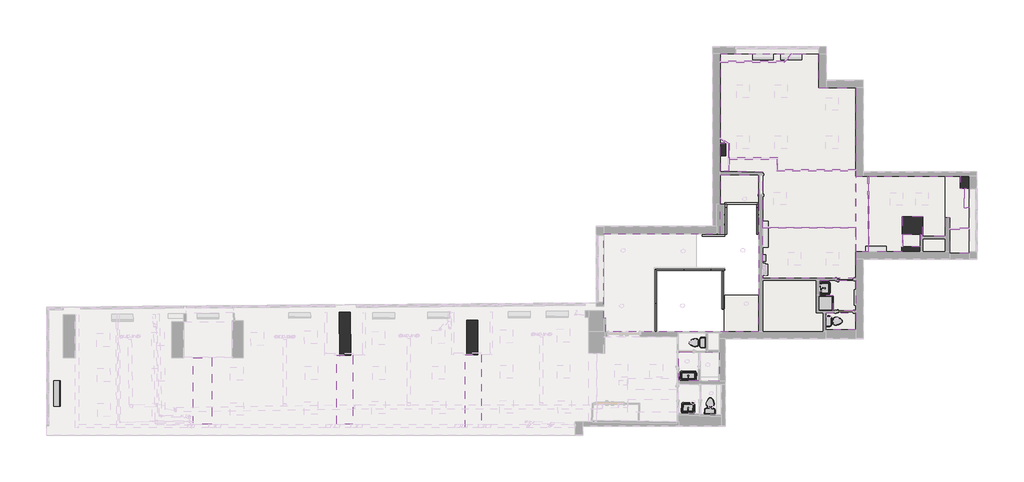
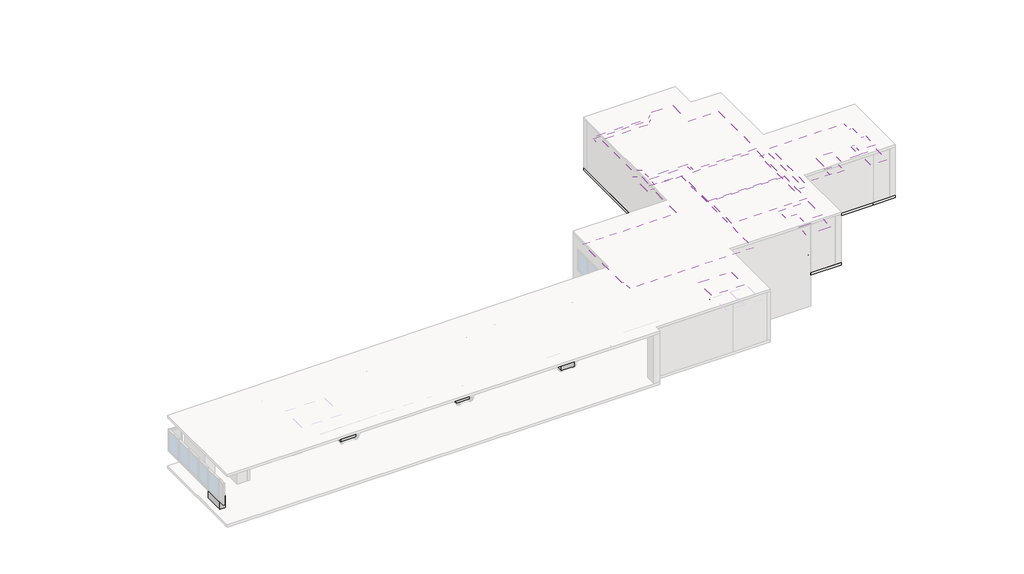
# One storey, part 5 of 8: 13 coverings, 7 proxies, 6 beams, 6 columns, 6 flow terminals, 6 railings, 4 slabs, 1 furniture element.
"""IFC4 building model written with IfcOpenShell, lengths in millimetres."""

from ifc_helpers import new_model, si_unit, point, frame, frame_2d, origin, origin_with_axes, place, context, project, spatial, polyline, circle_curve, ellipse_curve, trimmed, segment, composite_curve, outline, extrude, faceted_brep, transform, mapped, element, save
from ifc_brep_helpers import plane_surface, cylinder_surface, advanced_brep
from components import concrete_rectangular_beam_16_x_35_8daca9ba, concrete_rectangular_beam_16_x_36_812464ae, concrete_rectangular_beam_16_x_36_d7c6fc45, proxy_1b8ec6d5, support_metal_circular_support_metal_circular_6fb01533, flow_terminal_a8b8a3cc, flow_terminal_f29d4aba, toilet_domestic_3d_toilet_domestic_3d_f7549cf7, toilet_domestic_3d_toilet_domestic_3d_183bbd19, furniture_b5a66020

model = new_model("IFC4")

# Units and contexts
model_context = context("Model", 3, world=origin())
ifc_project = project(units=[si_unit("LENGTHUNIT", "METRE", prefix="MILLI")], contexts=[model_context])

# Site, building, storey
site = spatial("IfcSite", under=ifc_project)
building = spatial("IfcBuilding", under=site)
storey = spatial("IfcBuildingStorey", under=building, Name="GFL", Elevation=0.0)

# Beams
placement = place(None, origin())
element("IfcBeam", 1, ObjectType="Concrete-Rectangular Beam : 12 x 24", at=placement, inside=storey, context=model_context, shape_type="SweptSolid", body=[
    extrude(outline(polyline([(-1244.7061507, 11862.7084347), (-1497.1186507, 11862.7084347), (-1497.1186507, 12808.5638158), (-1244.7061507, 12808.5638158), (-1244.7061507, 11862.7084347)])), frame((0.0, 0.0, 1857.375), z_axis=(0.0, 0.0, 1.0), x_axis=(1.0, 0.0, 0.0)), (0.0, 0.0, 1.0), 533.4),
])
element("IfcBeam", 2, ObjectType="Concrete-Rectangular Beam : 16 x 33", at=placement, inside=storey, context=model_context, shape_type="Brep", body=[
    faceted_brep([(-13180.8791902, 13609.3945963, 2349.5), (-13180.8791902, 13609.3945963, 2024.0625), (-12746.6979402, 13609.3945963, 2024.0625), (-12746.6979402, 13609.3945963, 2349.5), (-12746.6979402, 14962.2837344, 2349.5), (-13180.8791902, 14962.2837344, 2349.5), (-12746.6979402, 14962.2837344, 2024.0625), (-13180.8791902, 14962.2837344, 2024.0625), (-13180.8791902, 14354.1337344, 2024.0625)], [[[0, 1, 2, 3]], [[4, 5, 0, 3]], [[6, 4, 3, 2]], [[7, 6, 2, 1, 8]], [[5, 7, 8, 1, 0]], [[5, 4, 6, 7]]]),
])
element("IfcBeam", 3, ObjectType="Concrete-Rectangular Beam : 16 x 34", at=placement, inside=storey, context=model_context, shape_type="SweptSolid", body=[
    extrude(outline(polyline([(-6680.8731869, 13388.7950658), (-6059.3669369, 13388.7950658), (-6059.3669369, 9769.2950658), (-6680.8731869, 9769.2950658), (-6680.8731869, 13388.7950658)])), frame((0.0, 0.0, 2068.083673), z_axis=(0.0, 0.0, 1.0), x_axis=(1.0, 0.0, 0.0)), (0.0, 0.0, 1.0), 313.7296875),
])
concrete_rectangular_beam_16_x_35_shape = concrete_rectangular_beam_16_x_35_8daca9ba(model_context)
element("IfcBeam", 4, ObjectType="Concrete-Rectangular Beam : 16 x 35", at=placement, inside=storey, context=model_context, shape_type="MappedRepresentation", body=[
    mapped(concrete_rectangular_beam_16_x_35_shape, transform((-37962.2307437, 3093.3429092, 2743.99375), x_axis=(0.0, -1.0, 0.0), y_axis=(1.0, 0.0, 0.0), z_axis=(0.0, 0.0, 1.0))),
])
concrete_rectangular_beam_16_x_36_shape = concrete_rectangular_beam_16_x_36_812464ae(model_context)
element("IfcBeam", 5, ObjectType="Concrete-Rectangular Beam : 16 x 36", at=placement, inside=storey, context=model_context, shape_type="MappedRepresentation", body=[
    mapped(concrete_rectangular_beam_16_x_36_shape, transform((-31153.3191434, 3147.7371542, 2743.99375), x_axis=(0.0, -1.0, 0.0), y_axis=(1.0, 0.0, 0.0), z_axis=(0.0, 0.0, 1.0))),
])
concrete_rectangular_beam_16_x_36_2_shape = concrete_rectangular_beam_16_x_36_d7c6fc45(model_context)
element("IfcBeam", 6, ObjectType="Concrete-Rectangular Beam : 16 x 36", at=placement, inside=storey, context=model_context, shape_type="MappedRepresentation", body=[
    mapped(concrete_rectangular_beam_16_x_36_2_shape, transform((-25008.9531385, 3082.6950491, 2743.99375), x_axis=(0.0, -1.0, 0.0), y_axis=(1.0, 0.0, 0.0), z_axis=(0.0, 0.0, 1.0))),
])

# Proxies
proxy_shape = proxy_1b8ec6d5(model_context)
element("IfcBuildingElementProxy", 7, Name="Radiator - Hydronic Fin Tube : 0-3/4\" NPT", ObjectType="Radiator - Hydronic Fin Tube : 0-3/4\" NPT", at=placement, inside=storey, context=model_context, shape_type="MappedRepresentation", body=[
    mapped(proxy_shape, transform((-45247.1973245, 2680.3991383, -304.8), x_axis=(0.0, -1.0, 0.0), y_axis=(1.0, 0.0, 0.0), z_axis=(0.0, 0.0, 1.0))),
])
support_metal_circular_support_metal_circular_shape = support_metal_circular_support_metal_circular_6fb01533(model_context)
element("IfcBuildingElementProxy", 8, Name="Support - Metal - Circular : Support - Metal - Circular", ObjectType="Support - Metal - Circular : Support - Metal - Circular", at=placement, inside=storey, context=model_context, shape_type="MappedRepresentation", body=[
    mapped(support_metal_circular_support_metal_circular_shape, transform((-13325.8639443, 10540.8245008, 311.9185823), x_axis=(1.0, 0.0, 0.0), y_axis=(0.0, 1.0, 0.0), z_axis=(0.0, 0.0, 1.0))),
])
element("IfcBuildingElementProxy", 9, Name="Support - Metal - Circular : Support - Metal - Circular", ObjectType="Support - Metal - Circular : Support - Metal - Circular", at=placement, inside=storey, context=model_context, shape_type="MappedRepresentation", body=[
    mapped(support_metal_circular_support_metal_circular_shape, transform((-13681.4639443, 10540.8245008, 566.8887212), x_axis=(1.0, 0.0, 0.0), y_axis=(0.0, 1.0, 0.0), z_axis=(0.0, 0.0, 1.0))),
])
element("IfcBuildingElementProxy", 10, Name="Support - Metal - Circular : Support - Metal - Circular", ObjectType="Support - Metal - Circular : Support - Metal - Circular", at=placement, inside=storey, context=model_context, shape_type="MappedRepresentation", body=[
    mapped(support_metal_circular_support_metal_circular_shape, transform((-12901.4791902, 11069.383874, 348.0927039), x_axis=(0.0, 1.0, 0.0), y_axis=(-1.0, 0.0, 0.0), z_axis=(0.0, 0.0, 1.0))),
])
element("IfcBuildingElementProxy", 11, Name="Support - Metal - Circular : Support - Metal - Circular", ObjectType="Support - Metal - Circular : Support - Metal - Circular", at=placement, inside=storey, context=model_context, shape_type="MappedRepresentation", body=[
    mapped(support_metal_circular_support_metal_circular_shape, transform((-12901.4791902, 11540.7105984, 652.3126806), x_axis=(0.0, 1.0, 0.0), y_axis=(-1.0, 0.0, 0.0), z_axis=(0.0, 0.0, 1.0))),
])
element("IfcBuildingElementProxy", 12, Name="Support - Metal - Circular : Support - Metal - Circular", ObjectType="Support - Metal - Circular : Support - Metal - Circular", at=placement, inside=storey, context=model_context, shape_type="MappedRepresentation", body=[
    mapped(support_metal_circular_support_metal_circular_shape, transform((-11409.3527068, 11071.5595119, 349.4969793), x_axis=(0.0, -1.0, 0.0), y_axis=(1.0, 0.0, 0.0), z_axis=(0.0, 0.0, 1.0))),
])
element("IfcBuildingElementProxy", 13, Name="Support - Metal - Circular : Support - Metal - Circular", ObjectType="Support - Metal - Circular : Support - Metal - Circular", at=placement, inside=storey, context=model_context, shape_type="MappedRepresentation", body=[
    mapped(support_metal_circular_support_metal_circular_shape, transform((-11409.3527068, 11545.0618742, 655.1212313), x_axis=(0.0, -1.0, 0.0), y_axis=(1.0, 0.0, 0.0), z_axis=(0.0, 0.0, 1.0))),
])

# Columns
element("IfcColumn", 14, ObjectType="Concrete-Rectangular-Column : 10 1/4\" x 2\"", at=placement, inside=storey, context=model_context, shape_type="SweptSolid", body=[
    extrude(outline(polyline([(-24780.447859, 6479.8097099), (-24780.447859, 4824.8409599), (-25314.641609, 4824.8409599), (-25314.641609, 6479.8097099), (-24780.447859, 6479.8097099)])), origin_with_axes(), (0.0, 0.0, 1.0), 1536.9976562),
])
element("IfcColumn", 15, ObjectType="Concrete-Rectangular-Column : 10 1/4\" x 2\" 2", at=placement, inside=storey, context=model_context, shape_type="Brep", body=[
    faceted_brep([(-30885.7356063, 6871.6385455, 0.0), (-30885.3898174, 6833.5401147, 0.0), (-30866.9360392, 4800.3340142, 0.0), (-31401.1077878, 4795.4857664, 0.0), (-31419.9073549, 6866.7902977, 0.0), (-31148.8430205, 6869.2505309, 0.0), (-30885.7356063, 6871.6385455, 1589.2859375), (-30885.3898174, 6833.5401147, 1589.2859375), (-30866.9360392, 4800.3340142, 1589.2859375), (-31401.1077878, 4795.4857664, 1589.2859375), (-31419.9073549, 6866.7902977, 1589.2859375), (-31148.8430205, 6869.2505309, 1589.2859375)], [[[0, 1, 2, 3, 4, 5]], [[6, 7, 8, 2, 1, 0]], [[8, 9, 3, 2]], [[9, 10, 4, 3]], [[10, 11, 6, 0, 5, 4]], [[6, 11, 10, 9, 8, 7]]]),
])
element("IfcColumn", 16, ObjectType="Concrete-Rectangular-Column : 10.5\" x 2'", at=placement, inside=storey, context=model_context, shape_type="Brep", body=[
    faceted_brep([(-1244.7061507, 13388.7950658, 120.65), (-1244.7061507, 12808.5638158, 120.65), (-1678.8874007, 12808.5638158, 120.65), (-1678.8874007, 13388.7950658, 120.65), (-1244.7061507, 13388.7950658, 2390.775), (-1244.7061507, 12808.5638158, 2390.775), (-1244.7061507, 12808.5638158, 1857.375), (-1497.1186507, 12808.5638158, 2390.775), (-1678.8874007, 12808.5638158, 2390.775), (-1678.8874007, 13388.7950658, 2390.775)], [[[0, 1, 2, 3]], [[4, 5, 6, 1, 0]], [[5, 7, 8, 2, 1, 6]], [[8, 9, 3, 2]], [[9, 4, 0, 3]], [[4, 9, 8, 7, 5]]]),
])
element("IfcColumn", 17, ObjectType="Concrete-Rectangular-Column : 10.5\" x 2' 3", at=placement, inside=storey, context=model_context, shape_type="SweptSolid", body=[
    extrude(outline(polyline([(-3481.3157768, 11427.8670688), (-3481.3157768, 10608.7170688), (-4468.7407768, 10608.7170688), (-4468.7407768, 11427.8670688), (-3481.3157768, 11427.8670688)])), origin_with_axes(), (0.0, 0.0, 1.0), 2390.775),
])
element("IfcColumn", 18, ObjectType="Concrete-Rectangular-Column : 10.5\" x 2' 4", at=placement, inside=storey, context=model_context, shape_type="SweptSolid", body=[
    extrude(outline(polyline([(-4492.5532768, 9999.6810033), (-3608.3157768, 9999.6810033), (-3608.3157768, 9769.2950658), (-4492.5532768, 9769.2950658), (-4492.5532768, 9999.6810033)])), origin_with_axes(), (0.0, 0.0, 1.0), 2390.775),
])
element("IfcColumn", 19, ObjectType="Concrete-Rectangular-Column : 12 x 19", at=placement, inside=storey, context=model_context, shape_type="Brep", body=[
    faceted_brep([(-12901.4791902, 14354.1337344, 0.0), (-13180.8791902, 14354.1337344, 0.0), (-13180.8791902, 14963.7337344, 0.0), (-12901.4791902, 14963.7337344, 0.0), (-12901.4791902, 14354.1337344, 2024.0625), (-13180.8791902, 14354.1337344, 2024.0625), (-13180.8791902, 14962.2837344, 2024.0625), (-13180.8791902, 14963.7337344, 2024.0625), (-12901.4791902, 14963.7337344, 2024.0625)], [[[0, 1, 2, 3]], [[4, 5, 1, 0]], [[5, 6, 7, 2, 1]], [[7, 8, 3, 2]], [[8, 4, 0, 3]], [[4, 8, 7, 6, 5]]]),
])

# Coverings
element("IfcCovering", 20, ObjectType="2' x 2' ACT System", at=placement, inside=storey, context=model_context, shape_type="SweptSolid", body=[
    extrude(outline(polyline([(-9710.2150678, 19230.3973103), (-8458.386381, 19230.3973103), (-8458.386381, 17605.7809522), (-6680.8731869, 17605.7809522), (-6680.8731869, 13695.7367924), (-10426.9337586, 13695.7367924), (-10426.9337586, 14253.288672), (-12750.7457487, 14253.288672), (-12750.7457487, 14931.1743234), (-13180.8791902, 15232.3570016), (-13180.8791902, 18840.026943), (-10100.5854351, 18840.026943), (-9710.2150678, 19230.3973103)]), holes=[polyline([(-12395.386381, 17137.3915215), (-11785.786381, 17137.3915215), (-11785.786381, 17746.9915215), (-12395.386381, 17746.9915215), (-12395.386381, 17137.3915215)]), polyline([(-10566.586381, 17137.3915215), (-9956.986381, 17137.3915215), (-9956.986381, 17746.9915215), (-10566.586381, 17746.9915215), (-10566.586381, 17137.3915215)]), polyline([(-10566.586381, 14698.9915215), (-9956.986381, 14698.9915215), (-9956.986381, 15308.5915215), (-10566.586381, 15308.5915215), (-10566.586381, 14698.9915215)]), polyline([(-12395.386381, 14698.9915215), (-11785.786381, 14698.9915215), (-11785.786381, 15308.5915215), (-12395.386381, 15308.5915215), (-12395.386381, 14698.9915215)]), polyline([(-8128.186381, 14698.9915215), (-7518.586381, 14698.9915215), (-7518.586381, 15308.5915215), (-8128.186381, 15308.5915215), (-8128.186381, 14698.9915215)]), polyline([(-8128.186381, 16527.7915215), (-7518.586381, 16527.7915215), (-7518.586381, 17137.3915215), (-8128.186381, 17137.3915215), (-8128.186381, 16527.7915215)])]), frame((0.0, 0.0, 2349.5), z_axis=(0.0, 0.0, 1.0), x_axis=(1.0, 0.0, 0.0)), (0.0, 0.0, 1.0), 57.15),
])
element("IfcCovering", 21, ObjectType="2' x 2' ACT System", at=placement, inside=storey, context=model_context, shape_type="SweptSolid", body=[
    extrude(outline(polyline([(-10121.6274841, 18890.826943), (-13180.8791902, 18890.826943), (-13180.8791902, 19230.3973103), (-9782.0571168, 19230.3973103), (-10121.6274841, 18890.826943)])), frame((0.0, 0.0, 1909.5988025), z_axis=(0.0, 0.0, 1.0), x_axis=(1.0, 0.0, 0.0)), (0.0, 0.0, 1.0), 57.15),
])
element("IfcCovering", 22, ObjectType="2' x 2' ACT System", at=placement, inside=storey, context=model_context, shape_type="SweptSolid", body=[
    extrude(outline(polyline([(-12750.7457487, 13605.8128133), (-12750.7457487, 14202.488672), (-10477.7337586, 14202.488672), (-10477.7337586, 13644.9367924), (-6680.8731869, 13644.9367924), (-6680.8731869, 10900.4032427), (-11129.9527068, 10900.4032427), (-11129.9527068, 13578.5632257), (-12750.7457487, 13605.8128133)]), holes=[polyline([(-10616.3926705, 12012.7887669), (-10006.7926705, 12012.7887669), (-10006.7926705, 12622.3887669), (-10616.3926705, 12622.3887669), (-10616.3926705, 12012.7887669)])]), frame((0.0, 0.0, 2260.6), z_axis=(0.0, 0.0, 1.0), x_axis=(1.0, 0.0, 0.0)), (0.0, 0.0, 1.0), 57.15),
])
element("IfcCovering", 23, ObjectType="2' x 2' ACT System", at=placement, inside=storey, context=model_context, shape_type="SweptSolid", body=[
    extrude(outline(polyline([(-11129.9527068, 10900.4032427), (-6680.8731869, 10900.4032427), (-6680.8731869, 9769.2950658), (-6682.9227955, 9769.2950658), (-6682.9227955, 8491.1857327), (-11129.9527068, 8491.1857327), (-11129.9527068, 10900.4032427)]), holes=[polyline([(-8101.7926705, 9127.9450658), (-7492.1926705, 9127.9450658), (-7492.1926705, 9737.5450658), (-8101.7926705, 9737.5450658), (-8101.7926705, 9127.9450658)]), polyline([(-9930.5926705, 9127.9450658), (-9320.9926705, 9127.9450658), (-9320.9926705, 9737.5450658), (-9930.5926705, 9737.5450658), (-9930.5926705, 9127.9450658)])]), frame((0.0, 0.0, 2368.55), z_axis=(0.0, 0.0, 1.0), x_axis=(1.0, 0.0, 0.0)), (0.0, 0.0, 1.0), 57.15),
])
element("IfcCovering", 24, ObjectType="2' x 2' ACT System", at=placement, inside=storey, context=model_context, shape_type="SweptSolid", body=[
    extrude(outline(polyline([(-6665.9337586, 13388.7950658), (-6137.593625, 13388.7950658), (-6091.4857822, 9769.2950658), (-6665.9337586, 9769.2950658), (-6665.9337586, 13388.7950658)])), frame((0.0, 0.0, 2082.8), z_axis=(0.0, 0.0, 1.0), x_axis=(1.0, 0.0, 0.0)), (0.0, 0.0, 1.0), 57.15),
])
element("IfcCovering", 25, ObjectType="2' x 2' ACT System", at=placement, inside=storey, context=model_context, shape_type="SweptSolid", body=[
    extrude(outline(polyline([(-4468.7407768, 11427.8670688), (-4468.7407768, 9769.2950658), (-6059.3669369, 9769.2950658), (-6059.3669369, 13388.7950658), (-1678.8874007, 13388.7950658), (-1678.8874007, 12808.5638158), (-1497.1186507, 12808.5638158), (-1497.1186507, 11862.7084347), (-1244.7061507, 11862.7084347), (-1244.7061507, 10897.8795958), (-2196.0199088, 10897.8795958), (-2196.0199088, 11399.6268595), (-2399.2199088, 11399.6268595), (-2399.2199088, 10510.6268595), (-3481.3157768, 10510.6268595), (-3481.3157768, 11427.8670688), (-4468.7407768, 11427.8670688)]), holes=[polyline([(-3827.7208926, 11984.817033), (-3218.1208926, 11984.817033), (-3218.1208926, 12594.417033), (-3827.7208926, 12594.417033), (-3827.7208926, 11984.817033)]), polyline([(-5046.9208926, 11984.817033), (-4437.3208926, 11984.817033), (-4437.3208926, 12594.417033), (-5046.9208926, 12594.417033), (-5046.9208926, 11984.817033)])]), frame((0.0, 0.0, 2374.9), z_axis=(0.0, 0.0, 1.0), x_axis=(1.0, 0.0, 0.0)), (0.0, 0.0, 1.0), 57.15),
])
element("IfcCovering", 26, ObjectType="2' x 2' ACT System", at=placement, inside=storey, context=model_context, shape_type="SweptSolid", body=[
    extrude(outline(polyline([(-8421.1230269, 8389.5857327), (-6682.9227955, 8389.5857327), (-6682.9227955, 6933.2610317), (-7773.4230269, 6933.2610317), (-7773.4230269, 7657.1610317), (-8421.1230269, 7657.1610317), (-8421.1230269, 8389.5857327)])), frame((0.0, 0.0, 2279.65), z_axis=(0.0, 0.0, 1.0), x_axis=(1.0, 0.0, 0.0)), (0.0, 0.0, 1.0), 57.15),
])
element("IfcCovering", 27, ObjectType="2' x 2' ACT System", at=placement, inside=storey, context=model_context, shape_type="SweptSolid", body=[
    extrude(outline(polyline([(-8132.4684097, 6831.6610317), (-6682.9227955, 6831.6610317), (-6682.9227955, 6021.7585448), (-8132.4684097, 6021.7585448), (-8132.4684097, 6831.6610317)]), holes=[composite_curve([segment(trimmed(circle_curve(frame_2d((-7597.3227955, 6542.4585448)), 76.2), [point((-7521.1227955, 6542.4585448))], [point((-7673.5227955, 6542.4585448))], True, "CARTESIAN"), True, "CONTINUOUS"), segment(trimmed(circle_curve(frame_2d((-7597.3227955, 6542.4585448)), 76.2), [point((-7673.5227955, 6542.4585448))], [point((-7521.1227955, 6542.4585448))], True, "CARTESIAN"), True, "CONTINUOUS")], self_intersect=False)]), frame((0.0, 0.0, 2101.85), z_axis=(0.0, 0.0, 1.0), x_axis=(1.0, 0.0, 0.0)), (0.0, 0.0, 1.0), 57.15),
])
element("IfcCovering", 28, ObjectType="2' x 2' ACT System", at=placement, inside=storey, context=model_context, shape_type="SweptSolid", body=[
    extrude(outline(polyline([(-13234.6348925, 3575.2500488), (-15165.5145713, 3604.1670738), (-15165.5145713, 4972.1385359), (-13870.1145713, 4958.3576559), (-13870.1145713, 4976.8976733), (-13234.6348925, 4938.7957145), (-13234.6348925, 3575.2500488)]), holes=[composite_curve([segment(trimmed(circle_curve(frame_2d((-14764.1249503, 4518.6827389)), 101.6), [point((-14662.5249503, 4518.6827389))], [point((-14865.7249503, 4518.6827389))], True, "CARTESIAN"), True, "CONTINUOUS"), segment(trimmed(circle_curve(frame_2d((-14764.1249503, 4518.6827389)), 101.6), [point((-14865.7249503, 4518.6827389))], [point((-14662.5249503, 4518.6827389))], True, "CARTESIAN"), True, "CONTINUOUS")], self_intersect=False), composite_curve([segment(trimmed(circle_curve(frame_2d((-13768.5145713, 4354.9954184)), 101.6), [point((-13666.9145713, 4354.9954184))], [point((-13870.1145713, 4354.9954184))], True, "CARTESIAN"), True, "CONTINUOUS"), segment(trimmed(circle_curve(frame_2d((-13768.5145713, 4354.9954184)), 101.6), [point((-13870.1145713, 4354.9954184))], [point((-13666.9145713, 4354.9954184))], True, "CARTESIAN"), True, "CONTINUOUS")], self_intersect=False)]), frame((0.0, 0.0, 2222.5), z_axis=(0.0, 0.0, 1.0), x_axis=(1.0, 0.0, 0.0)), (0.0, 0.0, 1.0), 57.15),
    extrude(outline(polyline([(-15165.5145713, 5894.7585448), (-13870.1145713, 5894.7585448), (-13870.1145713, 5009.1605304), (-15165.5145713, 5022.9414105), (-15165.5145713, 5894.7585448)]), holes=[composite_curve([segment(trimmed(circle_curve(frame_2d((-14547.2524396, 5442.0840751)), 101.6), [point((-14445.6524396, 5442.0840751))], [point((-14648.8524396, 5442.0840751))], True, "CARTESIAN"), True, "CONTINUOUS"), segment(trimmed(circle_curve(frame_2d((-14547.2524396, 5442.0840751)), 101.6), [point((-14648.8524396, 5442.0840751))], [point((-14445.6524396, 5442.0840751))], True, "CARTESIAN"), True, "CONTINUOUS")], self_intersect=False)]), frame((0.0, 0.0, 2222.5), z_axis=(0.0, 0.0, 1.0), x_axis=(1.0, 0.0, 0.0)), (0.0, 0.0, 1.0), 57.15),
])
element("IfcCovering", 29, ObjectType="GWB on Mtl. Stud", at=placement, inside=storey, context=model_context, shape_type="SweptSolid", body=[
    extrude(outline(polyline([(-13180.8791902, 10617.0245008), (-13180.8791902, 13460.6228958), (-11333.1527068, 13429.5579891), (-11333.1527068, 5945.5585448), (-18654.1525663, 5945.5585448), (-18654.1525663, 6586.391239), (-18756.4867691, 6586.391239), (-18756.4867691, 10617.0245008), (-13180.8791902, 10617.0245008)]), holes=[composite_curve([segment(trimmed(circle_curve(frame_2d((-14946.1791902, 9794.6995008)), 101.6), [point((-14844.5791902, 9794.6995008))], [point((-15047.7791902, 9794.6995008))], True, "CARTESIAN"), True, "CONTINUOUS"), segment(trimmed(circle_curve(frame_2d((-14946.1791902, 9794.6995008)), 101.6), [point((-15047.7791902, 9794.6995008))], [point((-14844.5791902, 9794.6995008))], True, "CARTESIAN"), True, "CONTINUOUS")], self_intersect=False), composite_curve([segment(trimmed(circle_curve(frame_2d((-12095.1527068, 9837.3857327)), 101.6), [point((-11993.5527068, 9837.3857327))], [point((-12196.7527068, 9837.3857327))], True, "CARTESIAN"), True, "CONTINUOUS"), segment(trimmed(circle_curve(frame_2d((-12095.1527068, 9837.3857327)), 101.6), [point((-12196.7527068, 9837.3857327))], [point((-11993.5527068, 9837.3857327))], True, "CARTESIAN"), True, "CONTINUOUS")], self_intersect=False), composite_curve([segment(trimmed(circle_curve(frame_2d((-14977.8697117, 7181.8568671)), 101.6), [point((-14876.2697117, 7181.8568671))], [point((-15079.4697117, 7181.8568671))], True, "CARTESIAN"), True, "CONTINUOUS"), segment(trimmed(circle_curve(frame_2d((-14977.8697117, 7181.8568671)), 101.6), [point((-15079.4697117, 7181.8568671))], [point((-14876.2697117, 7181.8568671))], True, "CARTESIAN"), True, "CONTINUOUS")], self_intersect=False), composite_curve([segment(trimmed(circle_curve(frame_2d((-17899.2008133, 7171.391239)), 101.6), [point((-17797.6008133, 7171.391239))], [point((-18000.8008133, 7171.391239))], True, "CARTESIAN"), True, "CONTINUOUS"), segment(trimmed(circle_curve(frame_2d((-17899.2008133, 7171.391239)), 101.6), [point((-18000.8008133, 7171.391239))], [point((-17797.6008133, 7171.391239))], True, "CARTESIAN"), True, "CONTINUOUS")], self_intersect=False), composite_curve([segment(trimmed(circle_curve(frame_2d((-17829.4493213, 9826.5149533)), 101.6), [point((-17727.8493213, 9826.5149533))], [point((-17931.0493213, 9826.5149533))], True, "CARTESIAN"), True, "CONTINUOUS"), segment(trimmed(circle_curve(frame_2d((-17829.4493213, 9826.5149533)), 101.6), [point((-17931.0493213, 9826.5149533))], [point((-17727.8493213, 9826.5149533))], True, "CARTESIAN"), True, "CONTINUOUS")], self_intersect=False), composite_curve([segment(trimmed(circle_curve(frame_2d((-11928.1490846, 7279.2891407)), 101.6), [point((-11826.5490846, 7279.2891407))], [point((-12029.7490846, 7279.2891407))], True, "CARTESIAN"), True, "CONTINUOUS"), segment(trimmed(circle_curve(frame_2d((-11928.1490846, 7279.2891407)), 101.6), [point((-12029.7490846, 7279.2891407))], [point((-11826.5490846, 7279.2891407))], True, "CARTESIAN"), True, "CONTINUOUS")], self_intersect=False), composite_curve([segment(trimmed(circle_curve(frame_2d((-12012.6027068, 12291.0532427)), 101.6), [point((-11911.0027068, 12291.0532427))], [point((-12114.2027068, 12291.0532427))], True, "CARTESIAN"), True, "CONTINUOUS"), segment(trimmed(circle_curve(frame_2d((-12012.6027068, 12291.0532427)), 101.6), [point((-12114.2027068, 12291.0532427))], [point((-11911.0027068, 12291.0532427))], True, "CARTESIAN"), True, "CONTINUOUS")], self_intersect=False)]), frame((0.0, 0.0, 2457.45), z_axis=(0.0, 0.0, 1.0), x_axis=(1.0, 0.0, 0.0)), (0.0, 0.0, 1.0), 107.95),
])
element("IfcCovering", 30, ObjectType="GWB on Mtl. Stud", at=placement, inside=storey, context=model_context, shape_type="SweptSolid", body=[
    extrude(outline(polyline([(-12801.5457487, 13606.6668884), (-13180.8791902, 13613.044433), (-13180.8791902, 15166.1964114), (-12801.5457487, 14900.5842761), (-12801.5457487, 13606.6668884)])), frame((0.0, 0.0, 2006.6), z_axis=(0.0, 0.0, 1.0), x_axis=(1.0, 0.0, 0.0)), (0.0, 0.0, 1.0), 107.95),
])
element("IfcCovering", 31, ObjectType="GWB on Mtl. Stud", at=placement, inside=storey, context=model_context, shape_type="SweptSolid", body=[
    extrude(outline(polyline([(-1244.7061507, 10847.0795958), (-1244.7061507, 9693.0950658), (-2196.0199088, 9693.0950658), (-2196.0199088, 10847.0795958), (-1244.7061507, 10847.0795958)])), frame((0.0, 0.0, 2180.9666095), z_axis=(0.0, 0.0, 1.0), x_axis=(1.0, 0.0, 0.0)), (0.0, 0.0, 1.0), 107.95),
])
element("IfcCovering", 32, ObjectType="GWB on Mtl. Stud", at=placement, inside=storey, context=model_context, shape_type="SweptSolid", body=[
    extrude(outline(polyline([(-4417.9407768, 9999.6810033), (-4417.9407768, 10608.7170688), (-3608.3157768, 10608.7170688), (-3608.3157768, 9999.6810033), (-4417.9407768, 9999.6810033)])), frame((0.0, 0.0, 2149.2166095), z_axis=(0.0, 0.0, 1.0), x_axis=(1.0, 0.0, 0.0)), (0.0, 0.0, 1.0), 107.95),
])

# Flow terminals
flow_terminal_shape = flow_terminal_a8b8a3cc(model_context)
element("IfcFlowTerminal", 33, ObjectType="Sink Vanity-Square : 20\" x 18\" 2", at=placement, inside=storey, context=model_context, shape_type="MappedRepresentation", body=[
    mapped(flow_terminal_shape, transform((-8215.5776258, 8006.6217911, 95.25), x_axis=(0.0, 1.0, 0.0), y_axis=(-1.0, 0.0, 0.0), z_axis=(0.0, 0.0, 1.0))),
])
element("IfcFlowTerminal", 34, ObjectType="Sink Vanity-Square : 20\" x 18\" 2", at=placement, inside=storey, context=model_context, shape_type="MappedRepresentation", body=[
    mapped(flow_terminal_shape, transform((-14704.020465, 2237.7618993, 146.05), x_axis=(-0.9991538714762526, 0.04112834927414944, 0.0), y_axis=(-0.04112834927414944, -0.9991538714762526, 0.0), z_axis=(0.0, 0.0, 1.0))),
])
flow_terminal_2_shape = flow_terminal_f29d4aba(model_context)
element("IfcFlowTerminal", 35, ObjectType="Sink Vanity-Square : 20\" x 18\" 3", at=placement, inside=storey, context=model_context, shape_type="MappedRepresentation", body=[
    mapped(flow_terminal_2_shape, transform((-14692.6991338, 3777.4873627, 146.05), x_axis=(-0.9998816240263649, 0.015386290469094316, 0.0), y_axis=(-0.015386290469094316, -0.9998816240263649, 0.0), z_axis=(0.0, 0.0, 1.0))),
])
toilet_domestic_3d_toilet_domestic_3d_shape = toilet_domestic_3d_toilet_domestic_3d_f7549cf7(model_context)
toilet_domestic_3d_toilet_domestic_3d_2_shape = toilet_domestic_3d_toilet_domestic_3d_183bbd19(model_context)
element("IfcFlowTerminal", 36, ObjectType="Toilet-Domestic-3D : Toilet-Domestic-3D", at=placement, inside=storey, context=model_context, shape_type="MappedRepresentation", body=[
    mapped(toilet_domestic_3d_toilet_domestic_3d_shape, transform((-7637.7723823, 6438.263018, 0.0), x_axis=(0.0, 1.0, 0.0), y_axis=(-1.0, 0.0, 0.0), z_axis=(0.0, 0.0, 1.0))),
    mapped(toilet_domestic_3d_toilet_domestic_3d_2_shape, transform((-7637.7723823, 6438.263018, 0.0), x_axis=(0.0, 1.0, 0.0), y_axis=(-1.0, 0.0, 0.0), z_axis=(0.0, 0.0, 1.0))),
])
element("IfcFlowTerminal", 37, ObjectType="Toilet-Domestic-3D : Toilet-Domestic-3D", at=placement, inside=storey, context=model_context, shape_type="MappedRepresentation", body=[
    mapped(toilet_domestic_3d_toilet_domestic_3d_shape, transform((-13657.626343, 2477.7344831, 0.0), x_axis=(-0.9991538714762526, 0.04112834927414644, 0.0), y_axis=(-0.04112834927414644, -0.9991538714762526, 0.0), z_axis=(0.0, 0.0, 1.0))),
    mapped(toilet_domestic_3d_toilet_domestic_3d_2_shape, transform((-13657.626343, 2477.7344831, 0.0), x_axis=(-0.9991538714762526, 0.04112834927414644, 0.0), y_axis=(-0.04112834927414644, -0.9991538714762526, 0.0), z_axis=(0.0, 0.0, 1.0))),
])
element("IfcFlowTerminal", 38, ObjectType="Toilet-Domestic-3D : Toilet-Domestic-3D", at=placement, inside=storey, context=model_context, shape_type="MappedRepresentation", body=[
    mapped(toilet_domestic_3d_toilet_domestic_3d_shape, transform((-14364.8105986, 5412.139802, 0.0), x_axis=(0.0, -1.0, 0.0), y_axis=(1.0, 0.0, 0.0), z_axis=(0.0, 0.0, 1.0))),
    mapped(toilet_domestic_3d_toilet_domestic_3d_2_shape, transform((-14364.8105986, 5412.139802, 0.0), x_axis=(0.0, -1.0, 0.0), y_axis=(1.0, 0.0, 0.0), z_axis=(0.0, 0.0, 1.0))),
])

# Furniture
furniture_shape = furniture_b5a66020(model_context)
element("IfcFurniture", 39, ObjectType="Base Cabinet-Single Door w Sliding Drawers : 12\" 2", at=placement, inside=storey, context=model_context, shape_type="MappedRepresentation", body=[
    mapped(furniture_shape, transform((-8471.9230269, 7276.4733267, 0.0), x_axis=(0.0, 1.0, 0.0), y_axis=(-1.0, 0.0, 0.0), z_axis=(0.0, 0.0, 1.0))),
])

# Railings
element("IfcRailing", 40, ObjectType="Handrail - Rectangular 1' 4\"", at=placement, inside=storey, context=model_context, shape_type="SolidModel", body=[
    faceted_brep([(-16295.9493213, 5920.0171755, 990.0621589), (-16295.9493213, 5920.0171755, 939.2621589), (-16245.1493213, 5920.0171755, 939.2621589), (-16245.1493213, 5920.0171755, 990.0621589), (-16295.9493213, 7266.2171755, 990.0621589), (-16295.9493213, 7266.2171755, 939.2621589), (-16245.1493213, 7266.2171755, 939.2621589), (-16245.1493213, 7266.2171755, 990.0621589), (-16295.9493213, 8917.2171755, 990.0621589), (-16295.9493213, 8917.2171755, 939.2621589), (-16245.1493213, 8866.4171755, 939.2621589), (-16245.1493213, 8866.4171755, 990.0621589), (-14930.3567045, 8917.2171755, 990.0621589), (-14930.3567045, 8917.2171755, 939.2621589), (-14930.3567045, 8866.4171755, 939.2621589), (-14930.3567045, 8866.4171755, 990.0621589), (-13641.3067045, 8917.2171755, 990.0621589), (-13641.3067045, 8866.4171755, 990.0621589), (-13641.3067045, 8866.4171755, 939.2621589), (-13641.3067045, 8917.2171755, 939.2621589)], [[[0, 1, 2, 3]], [[1, 0, 4, 5]], [[2, 1, 5, 6]], [[3, 2, 6, 7]], [[0, 3, 7, 4]], [[5, 4, 8, 9]], [[6, 5, 9, 10]], [[7, 6, 10, 11]], [[4, 7, 11, 8]], [[9, 8, 12, 13]], [[10, 9, 13, 14]], [[11, 10, 14, 15]], [[8, 11, 15, 12]], [[16, 17, 18, 19]], [[13, 12, 16, 19]], [[14, 13, 19, 18]], [[15, 14, 18, 17]], [[12, 15, 17, 16]]]),
    extrude(outline(composite_curve([segment(trimmed(circle_curve(frame_2d((723.3621589, -16270.5493213)), 12.7), [point((723.3621589, -16283.2493213))], [point((723.3621589, -16257.8493213))], False, "CARTESIAN"), True, "CONTINUOUS"), segment(trimmed(circle_curve(frame_2d((723.3621589, -16270.5493213)), 12.7), [point((723.3621589, -16257.8493213))], [point((723.3621589, -16283.2493213))], False, "CARTESIAN"), True, "CONTINUOUS")], self_intersect=False)), frame((0.0, 5920.0171755, 0.0), z_axis=(0.0, 1.0, 0.0), x_axis=(0.0, 0.0, 1.0)), (0.0, 0.0, 1.0), 1346.2),
    extrude(outline(composite_curve([segment(trimmed(circle_curve(frame_2d((723.3621589, -16270.5493213)), 12.7), [point((723.3621589, -16283.2493213))], [point((723.3621589, -16257.8493213))], False, "CARTESIAN"), True, "CONTINUOUS"), segment(trimmed(circle_curve(frame_2d((723.3621589, -16270.5493213)), 12.7), [point((723.3621589, -16257.8493213))], [point((723.3621589, -16283.2493213))], False, "CARTESIAN"), True, "CONTINUOUS")], self_intersect=False)), frame((0.0, 7266.2171755, 0.0), z_axis=(0.0, 1.0, 0.0), x_axis=(0.0, 0.0, 1.0)), (0.0, 0.0, 1.0), 1612.9),
    extrude(outline(composite_curve([segment(trimmed(circle_curve(frame_2d((8891.8171755, 723.3621589)), 12.7), [point((8904.5171755, 723.3621589))], [point((8879.1171755, 723.3621589))], False, "CARTESIAN"), True, "CONTINUOUS"), segment(trimmed(circle_curve(frame_2d((8891.8171755, 723.3621589)), 12.7), [point((8879.1171755, 723.3621589))], [point((8904.5171755, 723.3621589))], False, "CARTESIAN"), True, "CONTINUOUS")], self_intersect=False)), frame((-16283.2493213, 0.0, 0.0), z_axis=(1.0, 0.0, 0.0), x_axis=(0.0, 1.0, 0.0)), (0.0, 0.0, 1.0), 1352.8926168),
    extrude(outline(composite_curve([segment(trimmed(circle_curve(frame_2d((8891.8171755, 723.3621589)), 12.7), [point((8904.5171755, 723.3621589))], [point((8879.1171755, 723.3621589))], False, "CARTESIAN"), True, "CONTINUOUS"), segment(trimmed(circle_curve(frame_2d((8891.8171755, 723.3621589)), 12.7), [point((8879.1171755, 723.3621589))], [point((8904.5171755, 723.3621589))], False, "CARTESIAN"), True, "CONTINUOUS")], self_intersect=False)), frame((-14930.3567045, 0.0, 0.0), z_axis=(1.0, 0.0, 0.0), x_axis=(0.0, 1.0, 0.0)), (0.0, 0.0, 1.0), 1289.05),
    extrude(outline(polyline([(-14955.7567045, 8866.4171755), (-14955.7567045, 8917.2171755), (-14904.9567045, 8917.2171755), (-14904.9567045, 8866.4171755), (-14955.7567045, 8866.4171755)])), frame((0.0, 0.0, 583.6621589), z_axis=(0.0, 0.0, 1.0), x_axis=(1.0, 0.0, 0.0)), (0.0, 0.0, 1.0), 355.6),
    extrude(outline(polyline([(-16245.1493213, 8866.4171755), (-16295.9493213, 8866.4171755), (-16295.9493213, 8917.2171755), (-16245.1493213, 8917.2171755), (-16245.1493213, 8866.4171755)])), frame((0.0, 0.0, 583.6621589), z_axis=(0.0, 0.0, 1.0), x_axis=(1.0, 0.0, 0.0)), (0.0, 0.0, 1.0), 355.6),
    extrude(outline(polyline([(-16245.1493213, 7240.8171755), (-16295.9493213, 7240.8171755), (-16295.9493213, 7291.6171755), (-16245.1493213, 7291.6171755), (-16245.1493213, 7240.8171755)])), frame((0.0, 0.0, 583.6621589), z_axis=(0.0, 0.0, 1.0), x_axis=(1.0, 0.0, 0.0)), (0.0, 0.0, 1.0), 355.6),
    extrude(outline(polyline([(-13676.2317045, 8866.4171755), (-13676.2317045, 8917.2171755), (-13625.4317045, 8917.2171755), (-13625.4317045, 8866.4171755), (-13676.2317045, 8866.4171755)])), frame((0.0, 0.0, 583.6621589), z_axis=(0.0, 0.0, 1.0), x_axis=(1.0, 0.0, 0.0)), (0.0, 0.0, 1.0), 355.6),
    extrude(outline(polyline([(-16245.1493213, 5904.1421755), (-16295.9493213, 5904.1421755), (-16295.9493213, 5954.9421755), (-16245.1493213, 5954.9421755), (-16245.1493213, 5904.1421755)])), frame((0.0, 0.0, 583.6621589), z_axis=(0.0, 0.0, 1.0), x_axis=(1.0, 0.0, 0.0)), (0.0, 0.0, 1.0), 355.6),
])
element("IfcRailing", 41, ObjectType="Handrail - Rectangular 1' 4\"", at=placement, inside=storey, context=model_context, shape_type="SolidModel", body=[
    extrude(outline(polyline([(990.0621589, -13641.3067045), (930.159896, -13641.3067045), (509.774426, -12968.5493213), (569.6766889, -12968.5493213), (990.0621589, -13641.3067045)])), frame((0.0, 8866.4171755, 0.0), z_axis=(0.0, 1.0, 0.0), x_axis=(0.0, 0.0, 1.0)), (0.0, 0.0, 1.0), 50.8),
    advanced_brep(
    [(-13641.3067045, 8904.5171755, 721.0865932), (-13641.3067045, 8879.1171755, 721.0865932), (-12968.5493213, 8904.5171755, 300.7011232), (-12968.5493213, 8879.1171755, 300.7011232)],
    [
        (0, 1, ellipse_curve(frame((-13641.3067045, 8891.8171755, 721.0865932), z_axis=(-1.0, 0.0, 0.0), x_axis=(0.0, 0.0, 1.0)), 14.9755657, 12.7)),
        (1, 0, ellipse_curve(frame((-13641.3067045, 8891.8171755, 721.0865932), z_axis=(-1.0, 0.0, 0.0), x_axis=(0.0, 0.0, 1.0)), 14.9755657, 12.7)),
        (2, 3, ellipse_curve(frame((-12968.5493213, 8891.8171755, 300.7011232), z_axis=(1.0, 0.0, 0.0), x_axis=(0.0, 0.0, 1.0)), 14.9755657, 12.7)),
        (3, 2, ellipse_curve(frame((-12968.5493213, 8891.8171755, 300.7011232), z_axis=(1.0, 0.0, 0.0), x_axis=(0.0, 0.0, 1.0)), 14.9755657, 12.7)),
        (0, 2),
        (3, 1),
    ],
    [
        plane_surface(frame((-13641.3067045, 8891.8171755, 736.0621589), z_axis=(-1.0, 0.0, 0.0), x_axis=(0.0, 1.0, 0.0))),
        plane_surface(frame((-12968.5493213, 8891.8171755, 315.6766889), z_axis=(1.0, 0.0, 0.0), x_axis=(0.0, 1.0, 0.0))),
        cylinder_surface(frame((-13648.0366792, 8891.8171755, 725.2919481), z_axis=(-0.8480480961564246, 0.0, 0.5299192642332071), x_axis=(0.0, -1.0, 0.0)), 12.7),
    ],
    [
        (0, [[1, 2]]),
        (1, [[3, 4]]),
        (2, [[-1, 5, -4, 6]]),
        (2, [[-2, -6, -3, -5]]),
    ],
),
    extrude(outline(polyline([(499.854625, -12952.6743213), (531.5979881, -13003.4743213), (185.100251, -13003.4743213), (153.3568879, -12952.6743213), (499.854625, -12952.6743213)])), frame((0.0, 8866.4171755, 0.0), z_axis=(0.0, 1.0, 0.0), x_axis=(0.0, 0.0, 1.0)), (0.0, 0.0, 1.0), 50.8),
    extrude(outline(polyline([(908.3363339, -13606.3817045), (940.079697, -13657.1817045), (593.5819599, -13657.1817045), (561.8385968, -13606.3817045), (908.3363339, -13606.3817045)])), frame((0.0, 8866.4171755, 0.0), z_axis=(0.0, 1.0, 0.0), x_axis=(0.0, 0.0, 1.0)), (0.0, 0.0, 1.0), 50.8),
])
element("IfcRailing", 42, ObjectType="Handrail - Rectangular 1' 4\"", at=placement, inside=storey, context=model_context, shape_type="SolidModel", body=[
    extrude(outline(polyline([(7028.0921755, -1241.6100424), (7028.0921755, -1181.1471241), (8856.8921755, -0.7398514), (8856.8921755, -61.2027696), (7028.0921755, -1241.6100424)])), frame((-13079.2791902, 0.0, 0.0), z_axis=(1.0, 0.0, 0.0), x_axis=(0.0, 1.0, 0.0)), (0.0, 0.0, 1.0), 50.8),
    advanced_brep(
    [(-13066.5791902, 7028.0921755, -1450.2628537), (-13041.1791902, 7028.0921755, -1450.2628537), (-13066.5791902, 8856.8921755, -269.8555809), (-13041.1791902, 8856.8921755, -269.8555809)],
    [
        (0, 1, ellipse_curve(frame((-13053.8791902, 7028.0921755, -1450.2628537), z_axis=(0.0, -1.0, 0.0), x_axis=(0.0, 0.0, -1.0)), 15.1157296, 12.7)),
        (1, 0, ellipse_curve(frame((-13053.8791902, 7028.0921755, -1450.2628537), z_axis=(0.0, -1.0, 0.0), x_axis=(0.0, 0.0, -1.0)), 15.1157296, 12.7)),
        (2, 3, ellipse_curve(frame((-13053.8791902, 8856.8921755, -269.8555809), z_axis=(0.0, 1.0, 0.0), x_axis=(0.0, 0.0, -1.0)), 15.1157296, 12.7)),
        (3, 2, ellipse_curve(frame((-13053.8791902, 8856.8921755, -269.8555809), z_axis=(0.0, 1.0, 0.0), x_axis=(0.0, 0.0, -1.0)), 15.1157296, 12.7)),
        (0, 2),
        (3, 1),
    ],
    [
        plane_surface(frame((-13053.8791902, 7028.0921755, -1435.1471241), z_axis=(0.0, -1.0, 0.0), x_axis=(0.0, 0.0, 1.0))),
        plane_surface(frame((-13053.8791902, 8856.8921755, -254.7398514), z_axis=(0.0, 1.0, 0.0), x_axis=(0.0, 0.0, 1.0))),
        cylinder_surface(frame((-13053.8791902, 7034.979396, -1445.8174659), z_axis=(0.0, -0.8401843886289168, -0.5423008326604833), x_axis=(1.0, 0.0, 0.0)), 12.7),
    ],
    [
        (0, [[1, 2]]),
        (1, [[3, 4]]),
        (2, [[-1, 5, -4, 6]]),
        (2, [[-2, -6, -3, -5]]),
    ],
),
    extrude(outline(polyline([(8821.9671755, -83.7452696), (8872.7671755, -50.9561787), (8872.7671755, -396.8932605), (8821.9671755, -429.6823514), (8821.9671755, -83.7452696)])), frame((-13079.2791902, 0.0, 0.0), z_axis=(1.0, 0.0, 0.0), x_axis=(0.0, 1.0, 0.0)), (0.0, 0.0, 1.0), 50.8),
    extrude(outline(polyline([(7012.2171755, -1251.8566333), (7063.0171755, -1219.0675424), (7063.0171755, -1565.0046241), (7012.2171755, -1597.793715), (7012.2171755, -1251.8566333)])), frame((-13079.2791902, 0.0, 0.0), z_axis=(1.0, 0.0, 0.0), x_axis=(0.0, 1.0, 0.0)), (0.0, 0.0, 1.0), 50.8),
])
element("IfcRailing", 43, ObjectType="Handrail - Rectangular 1' 4\" 2", at=placement, inside=storey, context=model_context, shape_type="SweptSolid", body=[
    extrude(outline(polyline([(45.2394838, -12970.2639443), (107.7484434, -12970.2639443), (872.6588601, -14037.0639443), (810.1499005, -14037.0639443), (45.2394838, -12970.2639443)])), frame((0.0, 10515.4245008, 0.0), z_axis=(0.0, 1.0, 0.0), x_axis=(0.0, 0.0, 1.0)), (0.0, 0.0, 1.0), 50.8),
])
element("IfcRailing", 44, ObjectType="Handrail - Rectangular 1' 4\" 2", at=placement, inside=storey, context=model_context, shape_type="Brep", body=[
    faceted_brep([(-12926.8791902, 10598.0571497, 94.6727273), (-12926.8791902, 10598.0571497, 34.209809), (-12876.0791902, 10598.0571497, 34.209809), (-12876.0791902, 10598.0571497, 94.6727273), (-12926.8791902, 11868.0571497, 914.4), (-12926.8791902, 11883.0278681, 863.6), (-12876.0791902, 11883.0278681, 863.6), (-12876.0791902, 11868.0571497, 914.4), (-12926.8791902, 12039.4245008, 914.4), (-12876.0791902, 12039.4245008, 914.4), (-12876.0791902, 12039.4245008, 863.6), (-12926.8791902, 12039.4245008, 863.6)], [[[0, 1, 2, 3]], [[1, 0, 4, 5]], [[2, 1, 5, 6]], [[3, 2, 6, 7]], [[0, 3, 7, 4]], [[8, 9, 10, 11]], [[5, 4, 8, 11]], [[6, 5, 11, 10]], [[7, 6, 10, 9]], [[4, 7, 9, 8]]]),
])
element("IfcRailing", 45, ObjectType="Handrail - Rectangular 1' 4\" 2", at=placement, inside=storey, context=model_context, shape_type="Brep", body=[
    faceted_brep([(-11434.7527068, 10598.0571497, 94.6727273), (-11434.7527068, 10598.0571497, 34.209809), (-11383.9527068, 10598.0571497, 34.209809), (-11383.9527068, 10598.0571497, 94.6727273), (-11434.7527068, 11868.0571497, 914.4), (-11434.7527068, 11883.0278681, 863.6), (-11383.9527068, 11883.0278681, 863.6), (-11383.9527068, 11868.0571497, 914.4), (-11434.7527068, 12047.1929308, 914.4), (-11383.9527068, 12047.1929308, 914.4), (-11383.9527068, 12047.1929308, 863.6), (-11434.7527068, 12047.1929308, 863.6)], [[[0, 1, 2, 3]], [[1, 0, 4, 5]], [[2, 1, 5, 6]], [[3, 2, 6, 7]], [[0, 3, 7, 4]], [[8, 9, 10, 11]], [[5, 4, 8, 11]], [[6, 5, 11, 10]], [[7, 6, 10, 9]], [[4, 7, 9, 8]]]),
])

# Slabs
element("IfcSlab", 46, ObjectType="Generic - 12\"", at=placement, inside=storey, context=model_context, shape_type="SweptSolid", body=[
    extrude(outline(polyline([(-12977.6791902, 5945.5585448), (-12977.6791902, 7672.0357327), (-11333.1527068, 7672.0357327), (-11333.1527068, 5945.5585448), (-12977.6791902, 5945.5585448)])), frame((0.0, 0.0, -2108.2), z_axis=(0.0, 0.0, 1.0), x_axis=(1.0, 0.0, 0.0)), (0.0, 0.0, 1.0), 304.8),
])
element("IfcSlab", 47, ObjectType="Generic - 6\"", at=placement, inside=storey, context=model_context, shape_type="Brep", body=[
    faceted_brep([(-8102.786381, 19585.9973103, -152.4), (-8102.786381, 17961.3809522, -152.4), (-6325.2731869, 17961.3809522, -152.4), (-6325.2731869, 13591.9950658, -152.4), (-2196.0199088, 13591.9950658, -152.4), (-2196.0199088, 9413.6950658, -152.4), (-6327.3227955, 9413.6950658, -152.4), (-6327.3227955, 5589.9585448, -152.4), (-8132.4684097, 5589.9585448, -152.4), (-8132.4684097, 5945.5585448, -152.4), (-11129.9527068, 5945.5585448, -152.4), (-11129.9527068, 12028.4381533, -152.4), (-11129.9527068, 13426.1416885, -152.4), (-11333.1527068, 13429.5579891, -152.4), (-11333.1527068, 12039.4245008, -152.4), (-13536.4791902, 12039.4245008, -152.4), (-13536.4791902, 19585.9973103, -152.4), (-8102.786381, 17961.3809522, 0.0), (-8102.786381, 19585.9973103, 0.0), (-13536.4791902, 19585.9973103, 0.0), (-13536.4791902, 19230.3973103, 0.0), (-13536.4791902, 12039.4245008, 0.0), (-13333.2791902, 12039.4245008, 0.0), (-13180.8791902, 12039.4245008, 0.0), (-12977.6791902, 12039.4245008, 0.0), (-12977.6791902, 12122.0571497, 0.0), (-11333.1527068, 12122.0571497, 0.0), (-11333.1527068, 12504.3857327, 0.0), (-11333.1527068, 13418.7857327, 0.0), (-11333.1527068, 13429.5579891, 0.0), (-11129.9527068, 13426.1416885, 0.0), (-11129.9527068, 13418.7857327, 0.0), (-11129.9527068, 12504.3857327, 0.0), (-11129.9527068, 5945.5585448, 0.0), (-8132.4684097, 5945.5585448, 0.0), (-8132.4684097, 5589.9585448, 0.0), (-6327.3227955, 5589.9585448, 0.0), (-6327.3227955, 9413.6950658, 0.0), (-2196.0199088, 9413.6950658, 0.0), (-2196.0199088, 9693.0950658, 0.0), (-2196.0199088, 13388.7950658, 0.0), (-2196.0199088, 13591.9950658, 0.0), (-6325.2731869, 13591.9950658, 0.0), (-6325.2731869, 17961.3809522, 0.0), (-11333.1527068, 12039.4245008, -145.3088121), (-12977.6791902, 12039.4245008, -145.3088121), (-11333.1527068, 12122.0571497, -91.9731933), (-12977.6791902, 12122.0571497, -91.9731933)], [[[0, 1, 2, 3, 4, 5, 6, 7, 8, 9, 10, 11, 12, 13, 14, 15, 16]], [[17, 18, 19, 20, 21, 22, 23, 24, 25, 26, 27, 28, 29, 30, 31, 32, 33, 34, 35, 36, 37, 38, 39, 40, 41, 42, 43]], [[1, 0, 18, 17]], [[2, 1, 17, 43]], [[3, 2, 43, 42]], [[4, 3, 42, 41]], [[5, 4, 41, 40, 39, 38]], [[6, 5, 38, 37]], [[7, 6, 37, 36]], [[7, 36, 35, 8]], [[16, 15, 21, 20, 19]], [[0, 16, 19, 18]], [[15, 14, 44, 45, 24, 23, 22, 21]], [[45, 44, 46, 47]], [[47, 25, 24, 45]], [[47, 46, 26, 25]], [[9, 34, 33, 10]], [[34, 9, 8, 35]], [[13, 29, 28, 27, 26, 46, 44, 14]], [[30, 12, 11, 10, 33, 32, 31]], [[29, 13, 12, 30]]]),
])
element("IfcSlab", 48, ObjectType="Generic - 6\"", at=placement, inside=storey, context=model_context, shape_type="Brep", body=[
    faceted_brep([(-2196.0199088, 13591.9950658, -152.4), (-889.1061507, 13591.9950658, -152.4), (-889.1061507, 9413.6950658, -152.4), (-2196.0199088, 9413.6950658, -152.4), (-2196.0199088, 9413.6950658, 0.0), (-889.1061507, 9413.6950658, 0.0), (-889.1061507, 9693.0950658, 0.0), (-1244.7061507, 9693.0950658, 0.0), (-2196.0199088, 9693.0950658, 0.0), (-889.1061507, 13591.9950658, 0.0), (-2196.0199088, 13591.9950658, 0.0), (-2196.0199088, 13388.7950658, 0.0), (-1244.7061507, 13388.7950658, 0.0), (-889.1061507, 13388.7950658, 0.0), (-889.1061507, 13388.7950658, -31.75), (-889.1061507, 9693.0950658, -31.75), (-2196.0199088, 9693.0950658, -31.75), (-2196.0199088, 13388.7950658, -31.75)], [[[0, 1, 2, 3]], [[4, 5, 6, 7, 8]], [[9, 10, 11, 12, 13]], [[1, 0, 10, 9]], [[2, 1, 9, 13, 14, 15, 6, 5]], [[3, 2, 5, 4]], [[0, 3, 4, 8, 16, 17, 11, 10]], [[16, 15, 14, 17]], [[17, 14, 13, 12, 11]], [[15, 16, 8, 7, 6]]]),
])
element("IfcSlab", 49, ObjectType="Generic - 6\"", at=placement, inside=storey, context=model_context, shape_type="Brep", body=[
    faceted_brep([(-889.1061507, 13388.7950658, -31.75), (-889.1061507, 9693.0950658, -31.75), (-2196.0199088, 9693.0950658, -31.75), (-2196.0199088, 13388.7950658, -31.75), (-2399.2199088, 13388.7950658, 120.65), (-2399.2199088, 9693.0950658, 120.65), (-1244.7061507, 9693.0950658, 120.65), (-1244.7061507, 13388.7950658, 120.65), (-2196.0199088, 13388.7950658, 0.0), (-2399.2199088, 13388.7950658, 0.0), (-1244.7061507, 13388.7950658, 0.0), (-889.1061507, 13388.7950658, 0.0), (-889.1061507, 9693.0950658, 0.0), (-1244.7061507, 9693.0950658, 0.0), (-2399.2199088, 9693.0950658, 0.0), (-2197.2061507, 9693.0950658, 0.0), (-2196.0199088, 9693.0950658, 0.0)], [[[0, 1, 2, 3]], [[4, 5, 6, 7]], [[0, 3, 8, 9, 4, 7, 10, 11]], [[1, 0, 11, 12]], [[2, 1, 12, 13, 6, 5, 14, 15, 16]], [[5, 4, 9, 14]], [[8, 16, 15, 14, 9]], [[16, 8, 3, 2]], [[13, 10, 7, 6]], [[10, 13, 12, 11]]]),
])

save(model, "model.ifc")
